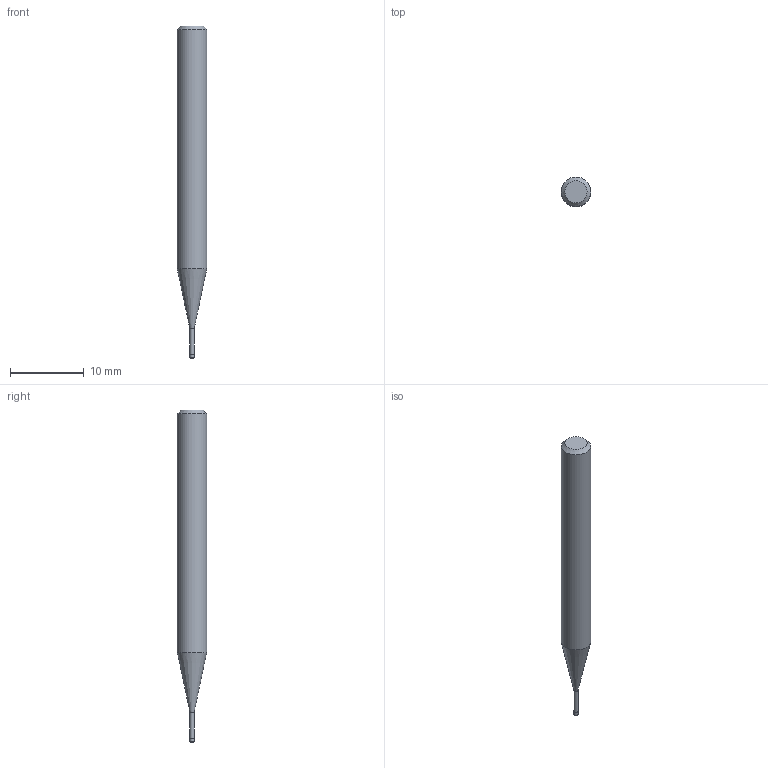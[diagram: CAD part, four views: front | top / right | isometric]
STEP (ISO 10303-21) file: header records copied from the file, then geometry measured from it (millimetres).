
FILE_DESCRIPTION((''),'2;1');
FILE_NAME('C:\Users\nsx150\AppData\Local\Temp\Mastercam 2021\3SYKECWX22\TEMP.step','2021-04-22T09:37:36',(''),(''),'STEP Write','Mastercam 2021 ... CNC Software, Inc.','');
FILE_SCHEMA(('AUTOMOTIVE_DESIGN'));
Length unit declared in the file: millimetre
Products named in the file (1): None
Bounding box: 4 x 4 x 45 mm (x, y, z)
Volume: 452.4 mm3; surface area: 489.2 mm2
Topology: 2 solids, 2 shells, 10 faces, 14 edges, 8 vertices
Faces by surface type: plane 4, cylinder 3, cone 2, torus 1
Full cylindrical faces by diameter (mm): 0.56 x1, 0.6 x1, 4 x1
Entity records: 232 total; most frequent: DIRECTION 40, CARTESIAN_POINT 28, AXIS2_PLACEMENT_3D 20, ORIENTED_EDGE 16, EDGE_LOOP 16, STYLED_ITEM 13, ADVANCED_FACE 10, FACE_BOUND 10
